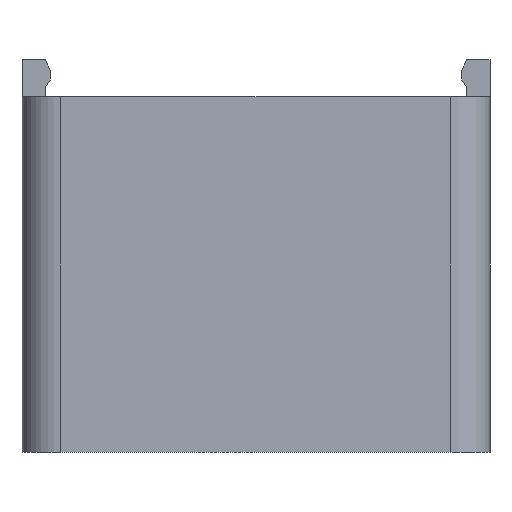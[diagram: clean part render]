
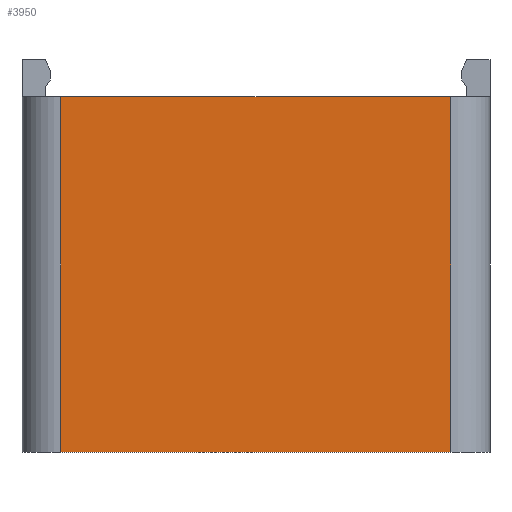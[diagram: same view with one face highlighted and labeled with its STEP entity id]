
A CAD part, front view. The second image highlights one B-rep face of the part: STEP entity #3950.
In plain terms, the highlighted planar face has unit normal (0, -1, 0).
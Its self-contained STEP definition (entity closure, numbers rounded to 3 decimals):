
#44 = PLANE('',#45);
#45 = AXIS2_PLACEMENT_3D('',#46,#47,#48);
#46 = CARTESIAN_POINT('',(-24.,-31.5,36.5));
#47 = DIRECTION('',(0.,0.,1.));
#48 = DIRECTION('',(1.,0.,0.));
#72 = CYLINDRICAL_SURFACE('',#73,4.);
#73 = AXIS2_PLACEMENT_3D('',#74,#75,#76);
#74 = CARTESIAN_POINT('',(-20.,-27.5,0.));
#75 = DIRECTION('',(0.,0.,1.));
#76 = DIRECTION('',(-1.,-0.,0.));
#100 = PLANE('',#101);
#101 = AXIS2_PLACEMENT_3D('',#102,#103,#104);
#102 = CARTESIAN_POINT('',(-24.,-31.5,0.));
#103 = DIRECTION('',(0.,0.,1.));
#104 = DIRECTION('',(1.,0.,0.));
#473 = VERTEX_POINT('',#474);
#474 = CARTESIAN_POINT('',(-20.,-31.5,36.5));
#496 = EDGE_CURVE('',#473,#497,#499,.T.);
#497 = VERTEX_POINT('',#498);
#498 = CARTESIAN_POINT('',(20.,-31.5,36.5));
#499 = SURFACE_CURVE('',#500,(#504,#511),.PCURVE_S1.);
#500 = LINE('',#501,#502);
#501 = CARTESIAN_POINT('',(-24.,-31.5,36.5));
#502 = VECTOR('',#503,1.);
#503 = DIRECTION('',(1.,0.,0.));
#504 = PCURVE('',#44,#505);
#505 = DEFINITIONAL_REPRESENTATION('',(#506),#510);
#506 = LINE('',#507,#508);
#507 = CARTESIAN_POINT('',(0.,0.));
#508 = VECTOR('',#509,1.);
#509 = DIRECTION('',(1.,0.));
#510 = ( GEOMETRIC_REPRESENTATION_CONTEXT(2) 
PARAMETRIC_REPRESENTATION_CONTEXT() REPRESENTATION_CONTEXT('2D SPACE',''
  ) );
#511 = PCURVE('',#512,#517);
#512 = PLANE('',#513);
#513 = AXIS2_PLACEMENT_3D('',#514,#515,#516);
#514 = CARTESIAN_POINT('',(-24.,-31.5,0.));
#515 = DIRECTION('',(0.,1.,0.));
#516 = DIRECTION('',(0.,0.,1.));
#517 = DEFINITIONAL_REPRESENTATION('',(#518),#522);
#518 = LINE('',#519,#520);
#519 = CARTESIAN_POINT('',(36.5,0.));
#520 = VECTOR('',#521,1.);
#521 = DIRECTION('',(0.,1.));
#522 = ( GEOMETRIC_REPRESENTATION_CONTEXT(2) 
PARAMETRIC_REPRESENTATION_CONTEXT() REPRESENTATION_CONTEXT('2D SPACE',''
  ) );
#545 = CYLINDRICAL_SURFACE('',#546,4.);
#546 = AXIS2_PLACEMENT_3D('',#547,#548,#549);
#547 = CARTESIAN_POINT('',(20.,-27.5,0.));
#548 = DIRECTION('',(0.,0.,1.));
#549 = DIRECTION('',(1.,0.,-0.));
#1057 = VERTEX_POINT('',#1058);
#1058 = CARTESIAN_POINT('',(-20.,-31.5,0.));
#1080 = EDGE_CURVE('',#1057,#473,#1081,.T.);
#1081 = SURFACE_CURVE('',#1082,(#1086,#1093),.PCURVE_S1.);
#1082 = LINE('',#1083,#1084);
#1083 = CARTESIAN_POINT('',(-20.,-31.5,0.));
#1084 = VECTOR('',#1085,1.);
#1085 = DIRECTION('',(0.,0.,1.));
#1086 = PCURVE('',#72,#1087);
#1087 = DEFINITIONAL_REPRESENTATION('',(#1088),#1092);
#1088 = LINE('',#1089,#1090);
#1089 = CARTESIAN_POINT('',(1.571,0.));
#1090 = VECTOR('',#1091,1.);
#1091 = DIRECTION('',(0.,1.));
#1092 = ( GEOMETRIC_REPRESENTATION_CONTEXT(2) 
PARAMETRIC_REPRESENTATION_CONTEXT() REPRESENTATION_CONTEXT('2D SPACE',''
  ) );
#1093 = PCURVE('',#512,#1094);
#1094 = DEFINITIONAL_REPRESENTATION('',(#1095),#1099);
#1095 = LINE('',#1096,#1097);
#1096 = CARTESIAN_POINT('',(0.,4.));
#1097 = VECTOR('',#1098,1.);
#1098 = DIRECTION('',(1.,0.));
#1099 = ( GEOMETRIC_REPRESENTATION_CONTEXT(2) 
PARAMETRIC_REPRESENTATION_CONTEXT() REPRESENTATION_CONTEXT('2D SPACE',''
  ) );
#1108 = EDGE_CURVE('',#1057,#1109,#1111,.T.);
#1109 = VERTEX_POINT('',#1110);
#1110 = CARTESIAN_POINT('',(20.,-31.5,0.));
#1111 = SURFACE_CURVE('',#1112,(#1116,#1123),.PCURVE_S1.);
#1112 = LINE('',#1113,#1114);
#1113 = CARTESIAN_POINT('',(-24.,-31.5,0.));
#1114 = VECTOR('',#1115,1.);
#1115 = DIRECTION('',(1.,0.,0.));
#1116 = PCURVE('',#100,#1117);
#1117 = DEFINITIONAL_REPRESENTATION('',(#1118),#1122);
#1118 = LINE('',#1119,#1120);
#1119 = CARTESIAN_POINT('',(0.,0.));
#1120 = VECTOR('',#1121,1.);
#1121 = DIRECTION('',(1.,0.));
#1122 = ( GEOMETRIC_REPRESENTATION_CONTEXT(2) 
PARAMETRIC_REPRESENTATION_CONTEXT() REPRESENTATION_CONTEXT('2D SPACE',''
  ) );
#1123 = PCURVE('',#512,#1124);
#1124 = DEFINITIONAL_REPRESENTATION('',(#1125),#1129);
#1125 = LINE('',#1126,#1127);
#1126 = CARTESIAN_POINT('',(0.,0.));
#1127 = VECTOR('',#1128,1.);
#1128 = DIRECTION('',(0.,1.));
#1129 = ( GEOMETRIC_REPRESENTATION_CONTEXT(2) 
PARAMETRIC_REPRESENTATION_CONTEXT() REPRESENTATION_CONTEXT('2D SPACE',''
  ) );
#3928 = EDGE_CURVE('',#1109,#497,#3929,.T.);
#3929 = SURFACE_CURVE('',#3930,(#3934,#3941),.PCURVE_S1.);
#3930 = LINE('',#3931,#3932);
#3931 = CARTESIAN_POINT('',(20.,-31.5,0.));
#3932 = VECTOR('',#3933,1.);
#3933 = DIRECTION('',(0.,0.,1.));
#3934 = PCURVE('',#545,#3935);
#3935 = DEFINITIONAL_REPRESENTATION('',(#3936),#3940);
#3936 = LINE('',#3937,#3938);
#3937 = CARTESIAN_POINT('',(-1.571,0.));
#3938 = VECTOR('',#3939,1.);
#3939 = DIRECTION('',(-0.,1.));
#3940 = ( GEOMETRIC_REPRESENTATION_CONTEXT(2) 
PARAMETRIC_REPRESENTATION_CONTEXT() REPRESENTATION_CONTEXT('2D SPACE',''
  ) );
#3941 = PCURVE('',#512,#3942);
#3942 = DEFINITIONAL_REPRESENTATION('',(#3943),#3947);
#3943 = LINE('',#3944,#3945);
#3944 = CARTESIAN_POINT('',(0.,44.));
#3945 = VECTOR('',#3946,1.);
#3946 = DIRECTION('',(1.,0.));
#3947 = ( GEOMETRIC_REPRESENTATION_CONTEXT(2) 
PARAMETRIC_REPRESENTATION_CONTEXT() REPRESENTATION_CONTEXT('2D SPACE',''
  ) );
#3950 = ADVANCED_FACE('',(#3951),#512,.F.);
#3951 = FACE_BOUND('',#3952,.F.);
#3952 = EDGE_LOOP('',(#3953,#3954,#3955,#3956));
#3953 = ORIENTED_EDGE('',*,*,#1108,.F.);
#3954 = ORIENTED_EDGE('',*,*,#1080,.T.);
#3955 = ORIENTED_EDGE('',*,*,#496,.T.);
#3956 = ORIENTED_EDGE('',*,*,#3928,.F.);
